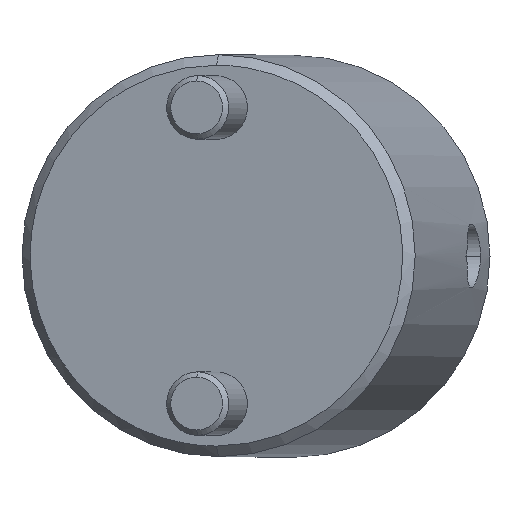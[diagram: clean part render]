
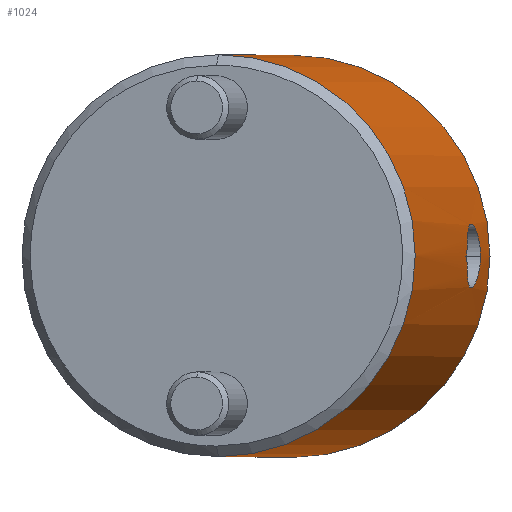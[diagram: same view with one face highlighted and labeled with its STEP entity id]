
A CAD part, top view. The second image highlights one B-rep face of the part: STEP entity #1024.
In plain terms, the highlighted cylindrical face has radius 19 mm (diameter 38 mm), a partial arc.
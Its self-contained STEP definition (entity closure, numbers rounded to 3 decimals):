
#760=CARTESIAN_POINT('Vertex',(0.,19.,1.)) ;
#763=CARTESIAN_POINT('Axis2P3D Location',(0.,0.,1.)) ;
#767=CARTESIAN_POINT('Vertex',(0.,-19.,1.)) ;
#919=CARTESIAN_POINT('Axis2P3D Location',(0.,0.,-1.8)) ;
#924=CARTESIAN_POINT('Line Origine',(0.,19.,18.)) ;
#928=CARTESIAN_POINT('Vertex',(0.,19.,35.)) ;
#931=CARTESIAN_POINT('Axis2P3D Location',(0.,0.,35.)) ;
#935=CARTESIAN_POINT('Vertex',(0.,-19.,35.)) ;
#938=CARTESIAN_POINT('Line Origine',(0.,-19.,18.)) ;
#950=CARTESIAN_POINT('Control Point',(19.,0.,30.665)) ;
#951=CARTESIAN_POINT('Control Point',(19.,0.082,30.665)) ;
#952=CARTESIAN_POINT('Control Point',(19.,0.163,30.663)) ;
#953=CARTESIAN_POINT('Control Point',(18.999,0.245,30.657)) ;
#954=CARTESIAN_POINT('Control Point',(18.995,0.489,30.63)) ;
#955=CARTESIAN_POINT('Control Point',(18.987,0.731,30.577)) ;
#956=CARTESIAN_POINT('Control Point',(18.98,0.894,30.529)) ;
#957=CARTESIAN_POINT('Control Point',(18.963,1.207,30.411)) ;
#958=CARTESIAN_POINT('Control Point',(18.942,1.499,30.251)) ;
#959=CARTESIAN_POINT('Control Point',(18.93,1.641,30.159)) ;
#960=CARTESIAN_POINT('Control Point',(18.905,1.913,29.956)) ;
#961=CARTESIAN_POINT('Control Point',(18.878,2.156,29.716)) ;
#962=CARTESIAN_POINT('Control Point',(18.864,2.27,29.587)) ;
#963=CARTESIAN_POINT('Control Point',(18.838,2.479,29.312)) ;
#964=CARTESIAN_POINT('Control Point',(18.814,2.652,29.008)) ;
#965=CARTESIAN_POINT('Control Point',(18.803,2.727,28.852)) ;
#966=CARTESIAN_POINT('Control Point',(18.784,2.856,28.531)) ;
#967=CARTESIAN_POINT('Control Point',(18.771,2.941,28.192)) ;
#968=CARTESIAN_POINT('Control Point',(18.766,2.972,28.017)) ;
#969=CARTESIAN_POINT('Control Point',(18.76,3.01,27.673)) ;
#970=CARTESIAN_POINT('Control Point',(18.762,3.,27.329)) ;
#971=CARTESIAN_POINT('Control Point',(18.764,2.983,27.158)) ;
#972=CARTESIAN_POINT('Control Point',(18.776,2.912,26.736)) ;
#973=CARTESIAN_POINT('Control Point',(18.797,2.77,26.335)) ;
#974=CARTESIAN_POINT('Control Point',(18.814,2.659,26.105)) ;
#975=CARTESIAN_POINT('Control Point',(18.856,2.348,25.599)) ;
#976=CARTESIAN_POINT('Control Point',(18.905,1.924,25.187)) ;
#977=CARTESIAN_POINT('Control Point',(18.932,1.648,24.985)) ;
#978=CARTESIAN_POINT('Control Point',(18.969,1.16,24.728)) ;
#979=CARTESIAN_POINT('Control Point',(18.991,0.626,24.586)) ;
#980=CARTESIAN_POINT('Control Point',(18.997,0.418,24.549)) ;
#981=CARTESIAN_POINT('Control Point',(19.,0.21,24.531)) ;
#982=CARTESIAN_POINT('Control Point',(19.,0.,24.531)) ;
#983=CARTESIAN_POINT('Vertex',(19.,0.,30.665)) ;
#985=CARTESIAN_POINT('Vertex',(19.,0.,24.531)) ;
#989=CARTESIAN_POINT('Control Point',(19.,0.,24.531)) ;
#990=CARTESIAN_POINT('Control Point',(19.,-0.168,24.531)) ;
#991=CARTESIAN_POINT('Control Point',(18.998,-0.336,24.543)) ;
#992=CARTESIAN_POINT('Control Point',(18.994,-0.503,24.566)) ;
#993=CARTESIAN_POINT('Control Point',(18.983,-0.835,24.637)) ;
#994=CARTESIAN_POINT('Control Point',(18.966,-1.155,24.752)) ;
#995=CARTESIAN_POINT('Control Point',(18.956,-1.308,24.82)) ;
#996=CARTESIAN_POINT('Control Point',(18.933,-1.606,24.979)) ;
#997=CARTESIAN_POINT('Control Point',(18.908,-1.879,25.178)) ;
#998=CARTESIAN_POINT('Control Point',(18.894,-2.008,25.287)) ;
#999=CARTESIAN_POINT('Control Point',(18.867,-2.249,25.522)) ;
#1000=CARTESIAN_POINT('Control Point',(18.841,-2.455,25.789)) ;
#1001=CARTESIAN_POINT('Control Point',(18.829,-2.548,25.93)) ;
#1002=CARTESIAN_POINT('Control Point',(18.8,-2.756,26.297)) ;
#1003=CARTESIAN_POINT('Control Point',(18.778,-2.898,26.697)) ;
#1004=CARTESIAN_POINT('Control Point',(18.768,-2.958,26.949)) ;
#1005=CARTESIAN_POINT('Control Point',(18.759,-3.014,27.375)) ;
#1006=CARTESIAN_POINT('Control Point',(18.762,-2.997,27.805)) ;
#1007=CARTESIAN_POINT('Control Point',(18.765,-2.977,27.979)) ;
#1008=CARTESIAN_POINT('Control Point',(18.778,-2.9,28.41)) ;
#1009=CARTESIAN_POINT('Control Point',(18.8,-2.751,28.82)) ;
#1010=CARTESIAN_POINT('Control Point',(18.817,-2.636,29.058)) ;
#1011=CARTESIAN_POINT('Control Point',(18.854,-2.361,29.503)) ;
#1012=CARTESIAN_POINT('Control Point',(18.895,-2.008,29.876)) ;
#1013=CARTESIAN_POINT('Control Point',(18.915,-1.812,30.044)) ;
#1014=CARTESIAN_POINT('Control Point',(18.955,-1.366,30.354)) ;
#1015=CARTESIAN_POINT('Control Point',(18.984,-0.86,30.555)) ;
#1016=CARTESIAN_POINT('Control Point',(18.995,-0.573,30.63)) ;
#1017=CARTESIAN_POINT('Control Point',(19.,-0.288,30.665)) ;
#1018=CARTESIAN_POINT('Control Point',(19.,0.,30.665)) ;
#764=DIRECTION('Axis2P3D Direction',(0.,0.,1.)) ;
#920=DIRECTION('Axis2P3D Direction',(0.,-0.,1.)) ;
#921=DIRECTION('Axis2P3D XDirection',(0.,-1.,0.)) ;
#925=DIRECTION('Vector Direction',(0.,0.,1.)) ;
#932=DIRECTION('Axis2P3D Direction',(0.,-0.,1.)) ;
#939=DIRECTION('Vector Direction',(0.,0.,1.)) ;
#765=AXIS2_PLACEMENT_3D('Circle Axis2P3D',#763,#764,$) ;
#922=AXIS2_PLACEMENT_3D('Cylinder Axis2P3D',#919,#920,#921) ;
#933=AXIS2_PLACEMENT_3D('Circle Axis2P3D',#931,#932,$) ;
#944=ORIENTED_EDGE('',*,*,#930,.F.) ;
#945=ORIENTED_EDGE('',*,*,#937,.T.) ;
#946=ORIENTED_EDGE('',*,*,#942,.T.) ;
#947=ORIENTED_EDGE('',*,*,#769,.F.) ;
#1021=ORIENTED_EDGE('',*,*,#987,.T.) ;
#1022=ORIENTED_EDGE('',*,*,#1019,.T.) ;
#1023=FACE_BOUND('',#1020,.T.) ;
#926=VECTOR('Line Direction',#925,1.) ;
#940=VECTOR('Line Direction',#939,1.) ;
#1024=ADVANCED_FACE('MANIFOLD_SOLID_BREP #1116',(#948,#1023),#923,.T.) ;
#949=B_SPLINE_CURVE_WITH_KNOTS('',5,(#950,#951,#952,#953,#954,#955,#956,#957,#958,#959,#960,#961,#962,#963,#964,#965,#966,#967,#968,#969,#970,#971,#972,#973,#974,#975,#976,#977,#978,#979,#980,#981,#982),.UNSPECIFIED.,.F.,.U.,(6,3,3,3,3,3,3,3,3,3,6),(0.,0.585,1.767,2.972,4.197,5.41,6.616,7.814,9.611,12.008,13.501),.UNSPECIFIED.) ;
#988=B_SPLINE_CURVE_WITH_KNOTS('',5,(#989,#990,#991,#992,#993,#994,#995,#996,#997,#998,#999,#1000,#1001,#1002,#1003,#1004,#1005,#1006,#1007,#1008,#1009,#1010,#1011,#1012,#1013,#1014,#1015,#1016,#1017,#1018),.UNSPECIFIED.,.F.,.U.,(6,3,3,3,3,3,3,3,3,6),(0.,1.206,2.407,3.614,4.817,6.61,7.813,9.635,11.452,13.504),.UNSPECIFIED.) ;
#766=CIRCLE('generated circle',#765,19.) ;
#934=CIRCLE('generated circle',#933,19.) ;
#923=CYLINDRICAL_SURFACE('generated cylinder',#922,19.) ;
#769=EDGE_CURVE('',#761,#768,#766,.F.) ;
#930=EDGE_CURVE('',#929,#761,#927,.F.) ;
#937=EDGE_CURVE('',#929,#936,#934,.F.) ;
#942=EDGE_CURVE('',#936,#768,#941,.F.) ;
#987=EDGE_CURVE('',#984,#986,#949,.T.) ;
#1019=EDGE_CURVE('',#986,#984,#988,.T.) ;
#943=EDGE_LOOP('',(#944,#945,#946,#947)) ;
#1020=EDGE_LOOP('',(#1021,#1022)) ;
#948=FACE_OUTER_BOUND('',#943,.T.) ;
#927=LINE('Line',#924,#926) ;
#941=LINE('Line',#938,#940) ;
#761=VERTEX_POINT('',#760) ;
#768=VERTEX_POINT('',#767) ;
#929=VERTEX_POINT('',#928) ;
#936=VERTEX_POINT('',#935) ;
#984=VERTEX_POINT('',#983) ;
#986=VERTEX_POINT('',#985) ;
